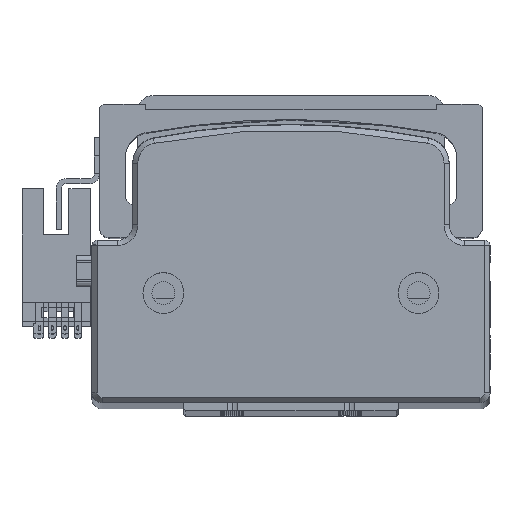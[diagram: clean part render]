
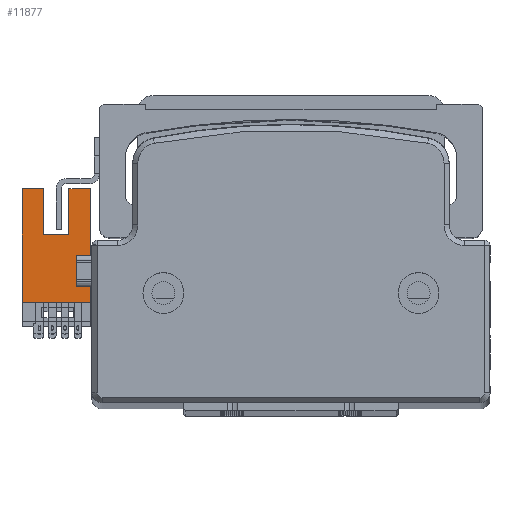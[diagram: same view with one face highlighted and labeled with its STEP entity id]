
A CAD part, top view. The second image highlights one B-rep face of the part: STEP entity #11877.
In plain terms, the highlighted planar face has unit normal (0, 0, 1) as drawn and (1, 0, 0) by its records, which use the part's own axes.
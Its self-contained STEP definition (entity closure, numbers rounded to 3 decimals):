
#177 = PLANE ( 'NONE',  #23754 ) ;
#1223 = VERTEX_POINT ( 'NONE', #6716 ) ;
#1735 = VERTEX_POINT ( 'NONE', #3026 ) ;
#2525 = CARTESIAN_POINT ( 'NONE',  ( 3.2, 2.35, 13.2 ) ) ;
#2651 = ORIENTED_EDGE ( 'NONE', *, *, #12326, .T. ) ;
#2801 = LINE ( 'NONE', #26999, #29434 ) ;
#3026 = CARTESIAN_POINT ( 'NONE',  ( 3.2, -6.85, 0. ) ) ;
#3094 = EDGE_CURVE ( 'NONE', #31232, #13799, #6576, .T. ) ;
#3097 = DIRECTION ( 'NONE',  ( 0., 0., 1. ) ) ;
#3410 = DIRECTION ( 'NONE',  ( 1., 0., 0. ) ) ;
#4396 = CARTESIAN_POINT ( 'NONE',  ( 3.2, 6.55, 0. ) ) ;
#4517 = DIRECTION ( 'NONE',  ( 0., 1., 0. ) ) ;
#5052 = CARTESIAN_POINT ( 'NONE',  ( 3.2, 2.35, 22.2 ) ) ;
#5355 = EDGE_CURVE ( 'NONE', #40418, #7484, #21859, .T. ) ;
#5625 = VECTOR ( 'NONE', #18717, 1000. ) ;
#6576 = LINE ( 'NONE', #30972, #31216 ) ;
#6716 = CARTESIAN_POINT ( 'NONE',  ( 3.2, 6.55, 22.2 ) ) ;
#7147 = ORIENTED_EDGE ( 'NONE', *, *, #25341, .T. ) ;
#7484 = VERTEX_POINT ( 'NONE', #17838 ) ;
#8673 = CARTESIAN_POINT ( 'NONE',  ( 3.2, 3.85, 22.2 ) ) ;
#8811 = DIRECTION ( 'NONE',  ( 0., -1., 0. ) ) ;
#9209 = LINE ( 'NONE', #35273, #25279 ) ;
#10091 = ORIENTED_EDGE ( 'NONE', *, *, #33705, .T. ) ;
#11695 = DIRECTION ( 'NONE',  ( 0., 0., 1. ) ) ;
#11877 = ADVANCED_FACE ( 'NONE', ( #36219 ), #177, .T. ) ;
#12305 = VECTOR ( 'NONE', #39619, 1000. ) ;
#12326 = EDGE_CURVE ( 'NONE', #19408, #40418, #29632, .T. ) ;
#12955 = CARTESIAN_POINT ( 'NONE',  ( 3.2, 3.85, 0. ) ) ;
#13184 = ORIENTED_EDGE ( 'NONE', *, *, #39268, .F. ) ;
#13385 = CARTESIAN_POINT ( 'NONE',  ( 3.2, 2.35, 13.2 ) ) ;
#13451 = EDGE_CURVE ( 'NONE', #26754, #39754, #20480, .T. ) ;
#13770 = LINE ( 'NONE', #8673, #29882 ) ;
#13799 = VERTEX_POINT ( 'NONE', #34643 ) ;
#14225 = VECTOR ( 'NONE', #21778, 1000. ) ;
#14782 = VECTOR ( 'NONE', #3097, 1000. ) ;
#16082 = ORIENTED_EDGE ( 'NONE', *, *, #19265, .T. ) ;
#16314 = ORIENTED_EDGE ( 'NONE', *, *, #20407, .F. ) ;
#17212 = ORIENTED_EDGE ( 'NONE', *, *, #39398, .F. ) ;
#17717 = CARTESIAN_POINT ( 'NONE',  ( 3.2, 3.85, 0. ) ) ;
#17838 = CARTESIAN_POINT ( 'NONE',  ( 3.2, -6.85, 22.2 ) ) ;
#18297 = ORIENTED_EDGE ( 'NONE', *, *, #13451, .F. ) ;
#18717 = DIRECTION ( 'NONE',  ( 0., -1., 0. ) ) ;
#18770 = ORIENTED_EDGE ( 'NONE', *, *, #3094, .T. ) ;
#18780 = VERTEX_POINT ( 'NONE', #22045 ) ;
#19265 = EDGE_CURVE ( 'NONE', #1223, #39754, #13770, .T. ) ;
#19408 = VERTEX_POINT ( 'NONE', #38289 ) ;
#19864 = DIRECTION ( 'NONE',  ( 0., 0., 1. ) ) ;
#20406 = DIRECTION ( 'NONE',  ( 0., 0., 1. ) ) ;
#20407 = EDGE_CURVE ( 'NONE', #1735, #7484, #23309, .T. ) ;
#20480 = LINE ( 'NONE', #13385, #31082 ) ;
#21778 = DIRECTION ( 'NONE',  ( 0., 1., 0. ) ) ;
#21859 = LINE ( 'NONE', #29909, #12305 ) ;
#21996 = EDGE_CURVE ( 'NONE', #41565, #34196, #2801, .T. ) ;
#22045 = CARTESIAN_POINT ( 'NONE',  ( 3.2, 3.85, 3. ) ) ;
#22345 = CARTESIAN_POINT ( 'NONE',  ( 3.2, -6.85, 0. ) ) ;
#23309 = LINE ( 'NONE', #22345, #14782 ) ;
#23754 = AXIS2_PLACEMENT_3D ( 'NONE', #12955, #3410, #25899 ) ;
#23756 = CARTESIAN_POINT ( 'NONE',  ( 3.2, -2.65, 22.2 ) ) ;
#24194 = LINE ( 'NONE', #17717, #41314 ) ;
#25279 = VECTOR ( 'NONE', #38506, 1000. ) ;
#25281 = DIRECTION ( 'NONE',  ( 0., 0., 1. ) ) ;
#25341 = EDGE_CURVE ( 'NONE', #18780, #41565, #24194, .T. ) ;
#25899 = DIRECTION ( 'NONE',  ( 0., 0., -1. ) ) ;
#26131 = CARTESIAN_POINT ( 'NONE',  ( 3.2, 6.55, 9.2 ) ) ;
#26194 = EDGE_LOOP ( 'NONE', ( #2651, #26409, #16314, #37947, #18770, #17212, #7147, #31288, #10091, #16082, #18297, #13184 ) ) ;
#26409 = ORIENTED_EDGE ( 'NONE', *, *, #5355, .T. ) ;
#26754 = VERTEX_POINT ( 'NONE', #28756 ) ;
#26999 = CARTESIAN_POINT ( 'NONE',  ( 3.2, -6.85, 9.2 ) ) ;
#28441 = VECTOR ( 'NONE', #20406, 1000. ) ;
#28756 = CARTESIAN_POINT ( 'NONE',  ( 3.2, 2.35, 13.2 ) ) ;
#28993 = CARTESIAN_POINT ( 'NONE',  ( 3.2, 6.55, 0. ) ) ;
#29321 = LINE ( 'NONE', #2525, #14225 ) ;
#29434 = VECTOR ( 'NONE', #4517, 1000. ) ;
#29632 = LINE ( 'NONE', #41335, #38210 ) ;
#29882 = VECTOR ( 'NONE', #8811, 1000. ) ;
#29909 = CARTESIAN_POINT ( 'NONE',  ( 3.2, 3.85, 22.2 ) ) ;
#30128 = CARTESIAN_POINT ( 'NONE',  ( 3.2, 3.85, 9.2 ) ) ;
#30209 = LINE ( 'NONE', #31540, #5625 ) ;
#30972 = CARTESIAN_POINT ( 'NONE',  ( 3.2, 6.55, 0. ) ) ;
#31082 = VECTOR ( 'NONE', #19864, 1000. ) ;
#31216 = VECTOR ( 'NONE', #11695, 1000. ) ;
#31232 = VERTEX_POINT ( 'NONE', #28993 ) ;
#31288 = ORIENTED_EDGE ( 'NONE', *, *, #21996, .T. ) ;
#31540 = CARTESIAN_POINT ( 'NONE',  ( 3.2, 3.85, 0. ) ) ;
#33705 = EDGE_CURVE ( 'NONE', #34196, #1223, #35964, .T. ) ;
#34196 = VERTEX_POINT ( 'NONE', #26131 ) ;
#34643 = CARTESIAN_POINT ( 'NONE',  ( 3.2, 6.55, 3. ) ) ;
#35273 = CARTESIAN_POINT ( 'NONE',  ( 3.2, 3.85, 3. ) ) ;
#35725 = EDGE_CURVE ( 'NONE', #31232, #1735, #30209, .T. ) ;
#35964 = LINE ( 'NONE', #4396, #28441 ) ;
#36219 = FACE_OUTER_BOUND ( 'NONE', #26194, .T. ) ;
#37947 = ORIENTED_EDGE ( 'NONE', *, *, #35725, .F. ) ;
#38210 = VECTOR ( 'NONE', #25281, 1000. ) ;
#38289 = CARTESIAN_POINT ( 'NONE',  ( 3.2, -2.65, 13.2 ) ) ;
#38506 = DIRECTION ( 'NONE',  ( 0., 1., 0. ) ) ;
#39268 = EDGE_CURVE ( 'NONE', #19408, #26754, #29321, .T. ) ;
#39398 = EDGE_CURVE ( 'NONE', #18780, #13799, #9209, .T. ) ;
#39619 = DIRECTION ( 'NONE',  ( 0., -1., 0. ) ) ;
#39754 = VERTEX_POINT ( 'NONE', #5052 ) ;
#40218 = DIRECTION ( 'NONE',  ( 0., 0., 1. ) ) ;
#40418 = VERTEX_POINT ( 'NONE', #23756 ) ;
#41314 = VECTOR ( 'NONE', #40218, 1000. ) ;
#41335 = CARTESIAN_POINT ( 'NONE',  ( 3.2, -2.65, 13.2 ) ) ;
#41565 = VERTEX_POINT ( 'NONE', #30128 ) ;
